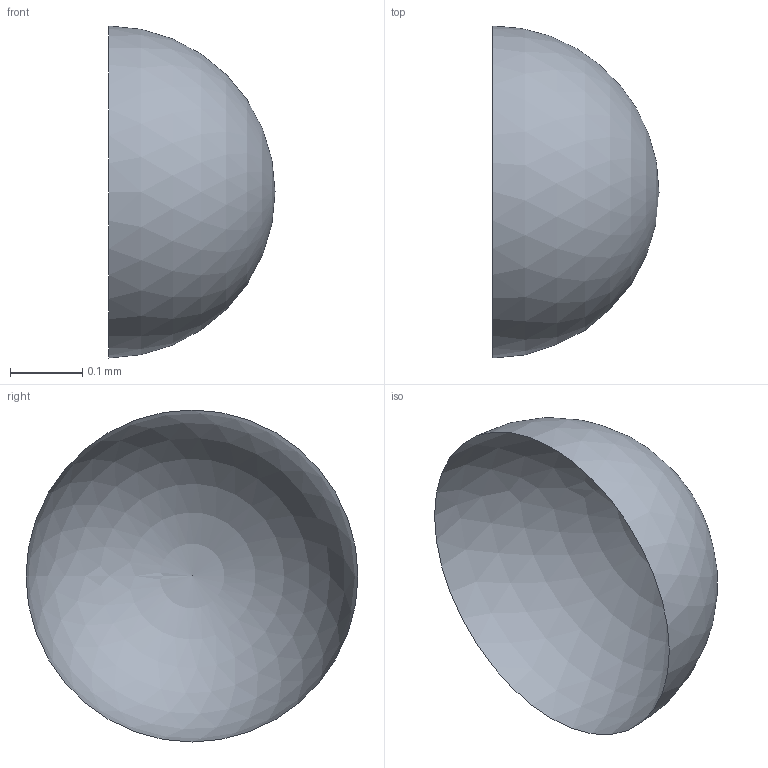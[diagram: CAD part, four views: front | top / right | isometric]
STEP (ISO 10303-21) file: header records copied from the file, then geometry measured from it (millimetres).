
FILE_DESCRIPTION(('BRL-CAD focused geometric regression fixture'),'2;1');
FILE_NAME('measured_full_period_chain','2026-07-24T00:00:00',('BRL-CAD'),('BRL-CAD'),'','','');
FILE_SCHEMA(('AUTOMOTIVE_DESIGN { 1 0 10303 214 3 1 1 1 }'));
Length unit declared in the file: millimetre
Products named in the file (1): measured_full_period_chain
Bounding box: 0.23 x 0.46 x 0.46 mm (x, y, z)
Surface area: 0.3 mm2 (no closed solid volume)
Topology: 0 solids, 1 shells, 1 faces, 4 edges, 3 vertices
Faces by surface type: sphere 1
Entity records: 49 total; most frequent: DIRECTION 8, CARTESIAN_POINT 7, ORIENTED_EDGE 4, AXIS2_PLACEMENT_3D 4, CIRCLE 3, VERTEX_POINT 3, EDGE_CURVE 3, SPHERICAL_SURFACE 1
